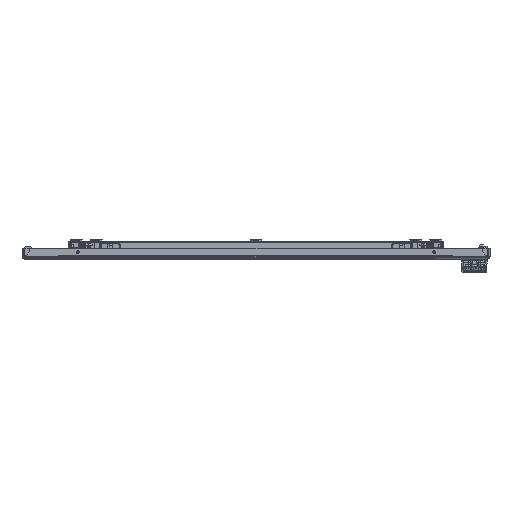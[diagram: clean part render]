
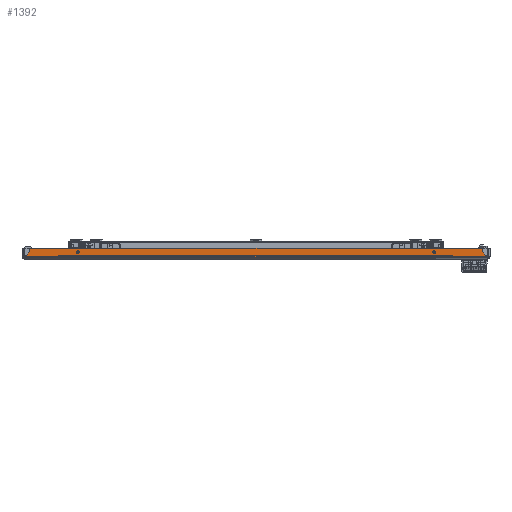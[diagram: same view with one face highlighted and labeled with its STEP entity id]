
A CAD part, front view. The second image highlights one B-rep face of the part: STEP entity #1392.
In plain terms, the highlighted planar face has unit normal (0, -1, 0).
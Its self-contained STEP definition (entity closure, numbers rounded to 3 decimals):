
#1392=ADVANCED_FACE('',(#56656,#56658,#56660),#56662,.F.);
#56656=FACE_BOUND('',#56657,.T.);
#56657=EDGE_LOOP('',(#115289,#115290,#115291,#115292,#115293,#115294));
#56658=FACE_BOUND('',#56659,.T.);
#56659=EDGE_LOOP('',(#115295));
#56660=FACE_BOUND('',#56661,.T.);
#56661=EDGE_LOOP('',(#115296));
#56662=PLANE('',#56663);
#56663=AXIS2_PLACEMENT_3D('',#56664,#56665,#56666);
#56664=CARTESIAN_POINT('',(0.,-993.2,0.));
#56665=DIRECTION('',(0.,1.,0.));
#56666=DIRECTION('',(0.,0.,-1.));
#115289=ORIENTED_EDGE('',*,*,#145359,.F.);
#115290=ORIENTED_EDGE('',*,*,#145360,.T.);
#115291=ORIENTED_EDGE('',*,*,#145361,.F.);
#115292=ORIENTED_EDGE('',*,*,#145362,.T.);
#115293=ORIENTED_EDGE('',*,*,#145363,.F.);
#115294=ORIENTED_EDGE('',*,*,#145357,.F.);
#115295=ORIENTED_EDGE('',*,*,#145174,.T.);
#115296=ORIENTED_EDGE('',*,*,#145176,.F.);
#145174=EDGE_CURVE('',#160267,#160267,#160268,.T.);
#145176=EDGE_CURVE('',#160271,#160271,#160272,.T.);
#145357=EDGE_CURVE('',#160582,#160575,#160585,.T.);
#145359=EDGE_CURVE('',#160587,#160582,#160588,.T.);
#145360=EDGE_CURVE('',#160587,#160589,#160590,.T.);
#145361=EDGE_CURVE('',#160591,#160589,#160592,.T.);
#145362=EDGE_CURVE('',#160591,#160593,#160594,.T.);
#145363=EDGE_CURVE('',#160575,#160593,#160595,.T.);
#160267=VERTEX_POINT('',#184933);
#160268=CIRCLE('',#184934,2.);
#160271=VERTEX_POINT('',#184943);
#160272=CIRCLE('',#184944,2.);
#160575=VERTEX_POINT('',#185786);
#160582=VERTEX_POINT('',#185841);
#160585=LINE('',#185862,#185863);
#160587=VERTEX_POINT('',#185868);
#160588=LINE('',#185869,#185870);
#160589=VERTEX_POINT('',#185872);
#160590=LINE('',#185873,#185874);
#160591=VERTEX_POINT('',#185876);
#160592=LINE('',#185877,#185878);
#160593=VERTEX_POINT('',#185880);
#160594=LINE('',#185881,#185882);
#160595=LINE('',#185884,#185885);
#184933=CARTESIAN_POINT('',(223.2,-993.2,10.7));
#184934=AXIS2_PLACEMENT_3D('',#184935,#184936,#184937);
#184935=CARTESIAN_POINT('',(223.2,-993.2,8.7));
#184936=DIRECTION('',(0.,1.,0.));
#184937=DIRECTION('',(0.,0.,1.));
#184943=CARTESIAN_POINT('',(-223.2,-993.2,10.7));
#184944=AXIS2_PLACEMENT_3D('',#184945,#184946,#184947);
#184945=CARTESIAN_POINT('',(-223.2,-993.2,8.7));
#184946=DIRECTION('',(0.,-1.,0.));
#184947=DIRECTION('',(0.,0.,-1.));
#185786=CARTESIAN_POINT('',(-289.623,-993.2,3.4));
#185841=CARTESIAN_POINT('',(289.623,-993.2,3.4));
#185862=CARTESIAN_POINT('',(289.623,-993.2,3.4));
#185863=VECTOR('',#185864,1.);
#185864=DIRECTION('',(-1.,0.,0.));
#185868=CARTESIAN_POINT('',(283.627,-993.2,9.396));
#185869=CARTESIAN_POINT('',(283.627,-993.2,9.396));
#185870=VECTOR('',#185871,1.);
#185871=DIRECTION('',(0.707,0.,-0.707));
#185872=CARTESIAN_POINT('',(283.627,-993.2,14.));
#185873=CARTESIAN_POINT('',(283.627,-993.2,9.396));
#185874=VECTOR('',#185875,1.);
#185875=DIRECTION('',(0.,0.,1.));
#185876=CARTESIAN_POINT('',(-283.627,-993.2,14.));
#185877=CARTESIAN_POINT('',(-283.627,-993.2,14.));
#185878=VECTOR('',#185879,1.);
#185879=DIRECTION('',(1.,0.,0.));
#185880=CARTESIAN_POINT('',(-283.627,-993.2,9.396));
#185881=CARTESIAN_POINT('',(-283.627,-993.2,14.));
#185882=VECTOR('',#185883,1.);
#185883=DIRECTION('',(0.,0.,-1.));
#185884=CARTESIAN_POINT('',(-289.623,-993.2,3.4));
#185885=VECTOR('',#185886,1.);
#185886=DIRECTION('',(0.707,0.,0.707));
